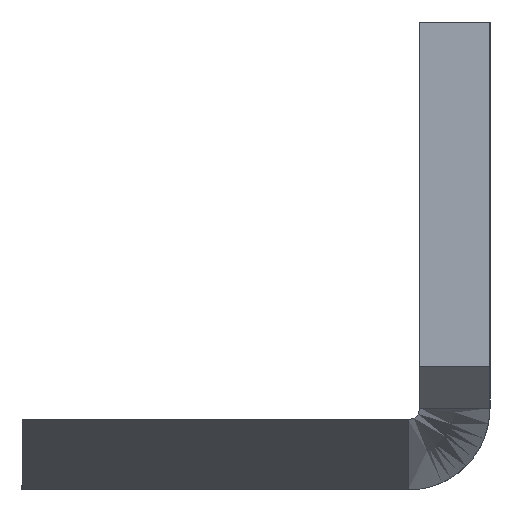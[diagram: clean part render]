
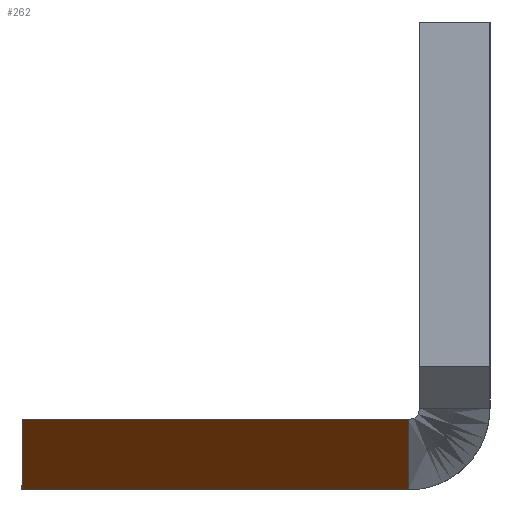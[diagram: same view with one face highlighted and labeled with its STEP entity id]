
A CAD part, left-side view. The second image highlights one B-rep face of the part: STEP entity #262.
In plain terms, the highlighted planar face has unit normal (-0.447, 0.894, 0).
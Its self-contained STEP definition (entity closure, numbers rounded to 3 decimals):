
#25 = FACE_OUTER_BOUND ( 'NONE', #1630, .T. ) ;
#55 = VECTOR ( 'NONE', #958, 1000. ) ;
#66 = AXIS2_PLACEMENT_3D ( 'NONE', #1607, #1819, #619 ) ;
#144 = LINE ( 'NONE', #1715, #55 ) ;
#262 = ADVANCED_FACE ( 'NONE', ( #25 ), #2626, .T. ) ;
#428 = EDGE_CURVE ( 'NONE', #1624, #2066, #2076, .T. ) ;
#453 = ORIENTED_EDGE ( 'NONE', *, *, #428, .F. ) ;
#619 = DIRECTION ( 'NONE',  ( -0.894, -0.447, 0. ) ) ;
#788 = EDGE_CURVE ( 'NONE', #1624, #1611, #1888, .T. ) ;
#857 = CARTESIAN_POINT ( 'NONE',  ( -110., 17., -20. ) ) ;
#958 = DIRECTION ( 'NONE',  ( -0.894, -0.447, 0. ) ) ;
#1052 = VECTOR ( 'NONE', #1520, 1000. ) ;
#1261 = ORIENTED_EDGE ( 'NONE', *, *, #788, .T. ) ;
#1262 = VERTEX_POINT ( 'NONE', #2001 ) ;
#1371 = CARTESIAN_POINT ( 'NONE',  ( -143., 0.5, -20. ) ) ;
#1520 = DIRECTION ( 'NONE',  ( 0., 0., 1. ) ) ;
#1574 = CARTESIAN_POINT ( 'NONE',  ( -110., 17., -20. ) ) ;
#1607 = CARTESIAN_POINT ( 'NONE',  ( -150., -3., -20. ) ) ;
#1611 = VERTEX_POINT ( 'NONE', #1951 ) ;
#1624 = VERTEX_POINT ( 'NONE', #1574 ) ;
#1630 = EDGE_LOOP ( 'NONE', ( #1965, #2160, #453, #1261 ) ) ;
#1715 = CARTESIAN_POINT ( 'NONE',  ( -150., -3., -17. ) ) ;
#1727 = DIRECTION ( 'NONE',  ( -0.894, -0.447, 0. ) ) ;
#1819 = DIRECTION ( 'NONE',  ( -0.447, 0.894, 0. ) ) ;
#1888 = LINE ( 'NONE', #1929, #1900 ) ;
#1900 = VECTOR ( 'NONE', #1727, 1000. ) ;
#1920 = EDGE_CURVE ( 'NONE', #1262, #1611, #2452, .T. ) ;
#1929 = CARTESIAN_POINT ( 'NONE',  ( -150., -3., -20. ) ) ;
#1951 = CARTESIAN_POINT ( 'NONE',  ( -143., 0.5, -20. ) ) ;
#1965 = ORIENTED_EDGE ( 'NONE', *, *, #1920, .F. ) ;
#2001 = CARTESIAN_POINT ( 'NONE',  ( -143., 0.5, -17. ) ) ;
#2012 = EDGE_CURVE ( 'NONE', #2066, #1262, #144, .T. ) ;
#2066 = VERTEX_POINT ( 'NONE', #2462 ) ;
#2076 = LINE ( 'NONE', #857, #1052 ) ;
#2160 = ORIENTED_EDGE ( 'NONE', *, *, #2012, .F. ) ;
#2175 = CARTESIAN_POINT ( 'NONE',  ( -143., 0.5, -17. ) ) ;
#2452 = B_SPLINE_CURVE_WITH_KNOTS ( 'NONE', 1,
 ( #2175, #1371 ),
 .UNSPECIFIED., .F., .F.,
 ( 2, 2 ),
 ( 0., 1. ),
 .UNSPECIFIED. ) ;
#2462 = CARTESIAN_POINT ( 'NONE',  ( -110., 17., -17. ) ) ;
#2626 = PLANE ( 'NONE',  #66 ) ;
